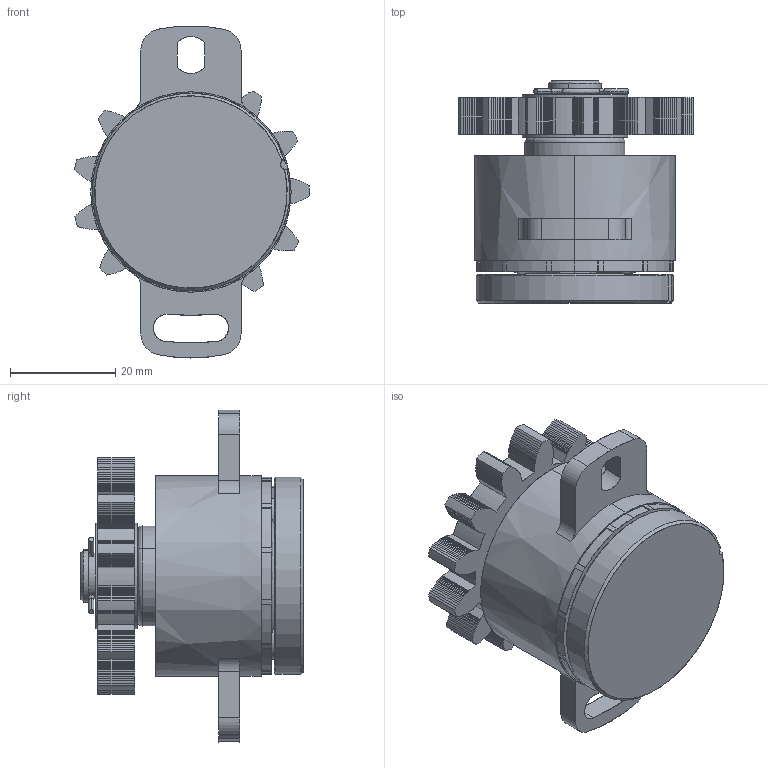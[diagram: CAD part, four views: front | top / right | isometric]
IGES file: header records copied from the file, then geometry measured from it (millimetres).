
Start section: SolidWorks IGES file using analytic representation for surfaces
Global section: file name: C:\3D-DATA\型式\R\【提出用】\IGS\FRN-P2(G2).IGS; native system: SolidWorks 2014; preprocessor: SolidWorks 2014; author: flgijutsu; date: 140516.193755; units: millimetre
Bounding box: 44.6 x 42.2 x 63 mm (x, y, z)
Surface area: 18071.8 mm2 (no closed solid volume)
Topology: 0 solids, 0 shells, 831 faces, 7243 edges, 7243 vertices
Faces by surface type: bspline 697, revolution 134
